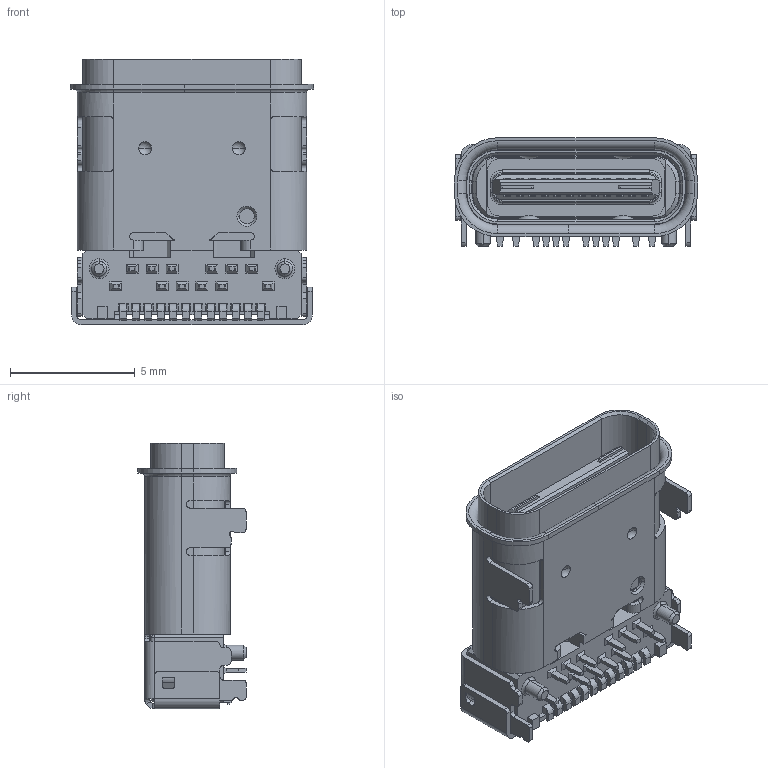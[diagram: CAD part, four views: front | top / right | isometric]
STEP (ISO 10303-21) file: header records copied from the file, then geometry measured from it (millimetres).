
FILE_DESCRIPTION((''),'2;1');
FILE_NAME('USB3_1_C_H0_29_ASM','2016-05-04T',('Rain'),(''),'PRO/ENGINEER BY PARAMETRIC TECHNOLOGY CORPORATION, 2012130','PRO/ENGINEER BY PARAMETRIC TECHNOLOGY CORPORATION, 2012130','');
FILE_SCHEMA(('CONFIG_CONTROL_DESIGN'));
Length unit declared in the file: millimetre
Products named in the file (1): USB3_1_C_H0_29_ASM
Bounding box: 9.74 x 4.33 x 10.65 mm (x, y, z)
Volume: 207.2 mm3; surface area: 990 mm2
Topology: 1 solids, 2 shells, 1030 faces, 2906 edges, 1835 vertices
Faces by surface type: plane 654, cylinder 284, sphere 32, torus 32, cone 26, bspline 2
Entity records: 33215 total; most frequent: CARTESIAN_POINT 6289, ORIENTED_EDGE 5740, DIRECTION 5537, EDGE_CURVE 2870, VECTOR 2063, LINE 2063, VERTEX_POINT 1835, AXIS2_PLACEMENT_3D 1737
